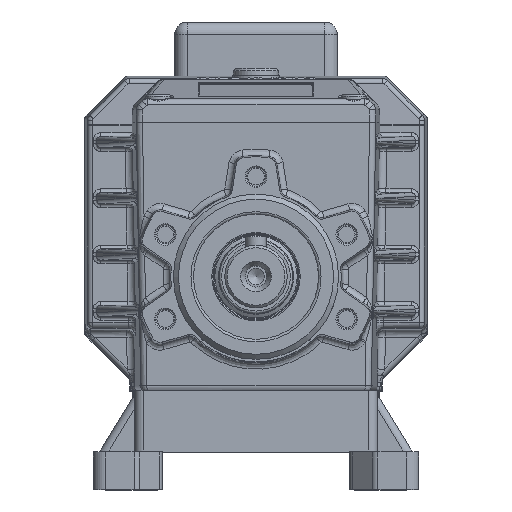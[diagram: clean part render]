
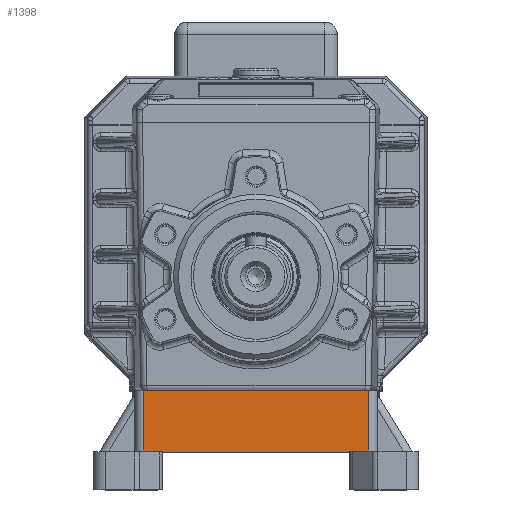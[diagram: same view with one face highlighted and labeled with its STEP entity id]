
A CAD part, top view. The second image highlights one B-rep face of the part: STEP entity #1398.
In plain terms, the highlighted planar face has unit normal (0, 0, 1).
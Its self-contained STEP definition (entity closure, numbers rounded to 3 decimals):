
#1398 = ADVANCED_FACE( '', ( #3981 ), #3982, .T. );
#3981 = FACE_OUTER_BOUND( '', #8221, .T. );
#3982 = PLANE( '', #8222 );
#8221 = EDGE_LOOP( '', ( #18071, #18072, #18073, #18074, #18075, #18076 ) );
#8222 = AXIS2_PLACEMENT_3D( '', #18077, #18078, #18079 );
#18071 = ORIENTED_EDGE( '', *, *, #28179, .F. );
#18072 = ORIENTED_EDGE( '', *, *, #28180, .F. );
#18073 = ORIENTED_EDGE( '', *, *, #28181, .T. );
#18074 = ORIENTED_EDGE( '', *, *, #28145, .T. );
#18075 = ORIENTED_EDGE( '', *, *, #27861, .T. );
#18076 = ORIENTED_EDGE( '', *, *, #28182, .T. );
#18077 = CARTESIAN_POINT( '', ( 44.923, -70., -15.438 ) );
#18078 = DIRECTION( '', ( 0., 0., 1. ) );
#18079 = DIRECTION( '', ( -1., 0., 0. ) );
#27861 = EDGE_CURVE( '', #32050, #32048, #32051, .T. );
#28145 = EDGE_CURVE( '', #32553, #32050, #32554, .T. );
#28179 = EDGE_CURVE( '', #32614, #32615, #32616, .T. );
#28180 = EDGE_CURVE( '', #32617, #32614, #32618, .T. );
#28181 = EDGE_CURVE( '', #32617, #32553, #32619, .T. );
#28182 = EDGE_CURVE( '', #32048, #32615, #32620, .T. );
#32048 = VERTEX_POINT( '', #38157 );
#32050 = VERTEX_POINT( '', #38159 );
#32051 = LINE( '', #38160, #38161 );
#32553 = VERTEX_POINT( '', #39365 );
#32554 = LINE( '', #39366, #39367 );
#32614 = VERTEX_POINT( '', #39477 );
#32615 = VERTEX_POINT( '', #39478 );
#32616 = LINE( '', #39479, #39480 );
#32617 = VERTEX_POINT( '', #39481 );
#32618 = LINE( '', #39482, #39483 );
#32619 = LINE( '', #39484, #39485 );
#32620 = LINE( '', #39486, #39487 );
#38157 = CARTESIAN_POINT( '', ( 44.923, -70., -15.438 ) );
#38159 = CARTESIAN_POINT( '', ( 37.5, -70., -15.438 ) );
#38160 = CARTESIAN_POINT( '', ( 44.923, -70., -15.438 ) );
#38161 = VECTOR( '', #53004, 1000. );
#39365 = CARTESIAN_POINT( '', ( -37.5, -70., -15.438 ) );
#39366 = CARTESIAN_POINT( '', ( 44.923, -70., -15.438 ) );
#39367 = VECTOR( '', #53313, 1000. );
#39477 = CARTESIAN_POINT( '', ( -44.923, -45.5, -15.438 ) );
#39478 = CARTESIAN_POINT( '', ( 44.923, -45.5, -15.438 ) );
#39479 = CARTESIAN_POINT( '', ( 44.923, -45.5, -15.438 ) );
#39480 = VECTOR( '', #53345, 1000. );
#39481 = CARTESIAN_POINT( '', ( -44.923, -70., -15.438 ) );
#39482 = CARTESIAN_POINT( '', ( -44.923, -70., -15.438 ) );
#39483 = VECTOR( '', #53346, 1000. );
#39484 = CARTESIAN_POINT( '', ( 44.923, -70., -15.438 ) );
#39485 = VECTOR( '', #53347, 1000. );
#39486 = CARTESIAN_POINT( '', ( 44.923, -70., -15.438 ) );
#39487 = VECTOR( '', #53348, 1000. );
#53004 = DIRECTION( '', ( 1., 0., 0. ) );
#53313 = DIRECTION( '', ( 1., 0., 0. ) );
#53345 = DIRECTION( '', ( 1., 0., 0. ) );
#53346 = DIRECTION( '', ( 0., 1., 0. ) );
#53347 = DIRECTION( '', ( 1., 0., 0. ) );
#53348 = DIRECTION( '', ( 0., 1., 0. ) );
